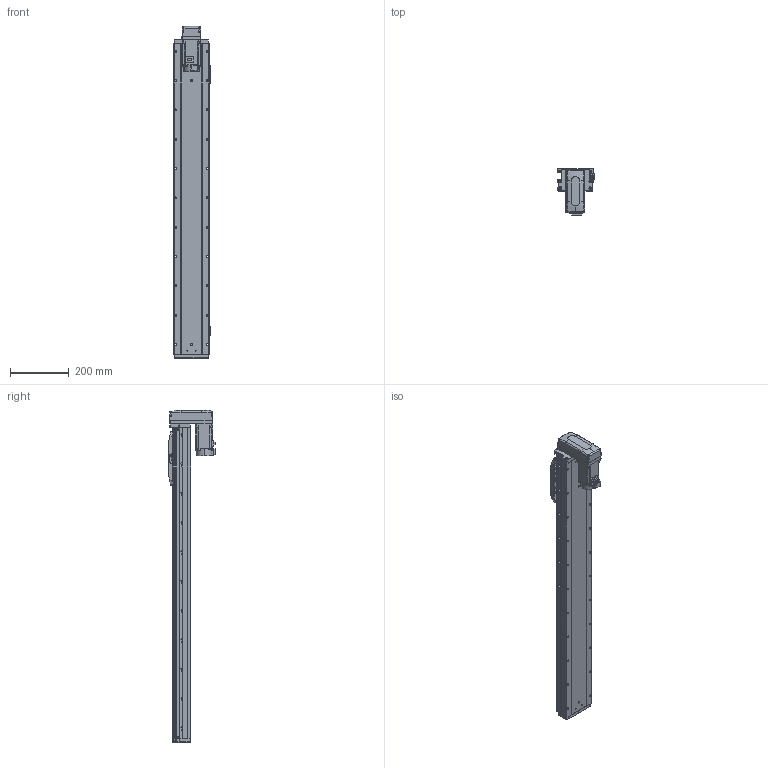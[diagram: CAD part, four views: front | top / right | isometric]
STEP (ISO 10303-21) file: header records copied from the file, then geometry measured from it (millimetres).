
FILE_DESCRIPTION (( 'STEP AP203' ), '1' );
FILE_NAME ('GTH12-850-BM-M40-C4.step', '2022-09-29T02:02:51', ( '微软用户' ), ( '微软中国' ), 'SwSTEP 2.0', 'SolidWorks 2020', '' );
FILE_SCHEMA (( 'CONFIG_CONTROL_DESIGN' ));
Length unit declared in the file: millimetre
Products named in the file (18): GTH120-003; GTH80-022; CTHA86-033_M40B; GTH120-006; GTH80-028; GTH120-027-1_GTH120-027-2; GTH120-004; GTH50-023; GTH12-850-BM-M40-C4; GTH120-013; GTH50-024; GBT 70.1-M3℅6; GBT96.1-2002 3×0.8; GBT 70.1-M5×16; BTH-M3X5X6; GTH120-001_850; GBT 70.3-M3℅8; hg-kn43j_-s100_
Assembly tree (59 placements, depth 2):
  GTH12-850-BM-M40-C4
    GTH120-001_850
    GTH120-003
    GTH120-006
    GTH120-004
    GTH120-013
    GBT 70.1-M3℅6  x14
    GBT 70.1-M5×16  x10
    GBT 70.3-M3℅8  x4
    GTH80-022
    GTH80-028  x2
    GTH50-023  x3
    GTH50-024  x3
    GBT96.1-2002 3×0.8  x6
    BTH-M3X5X6  x8
    hg-kn43j_-s100_
    CTHA86-033_M40B
    GTH120-027-1_GTH120-027-2
Bounding box: 125.7 x 159.8 x 1132 mm (x, y, z)
Volume: 8166353.8 mm3; surface area: 714394.7 mm2
Topology: 61 solids, 61 shells, 2497 faces, 5838 edges, 3583 vertices
Faces by surface type: plane 1278, cylinder 731, cone 300, torus 174, sphere 8, bspline 6
Entity records: 47292 total; most frequent: CARTESIAN_POINT 8048, DIRECTION 7842, ORIENTED_EDGE 7286, EDGE_CURVE 3643, AXIS2_PLACEMENT_3D 2742, VECTOR 2358, LINE 2358, VERTEX_POINT 2304
